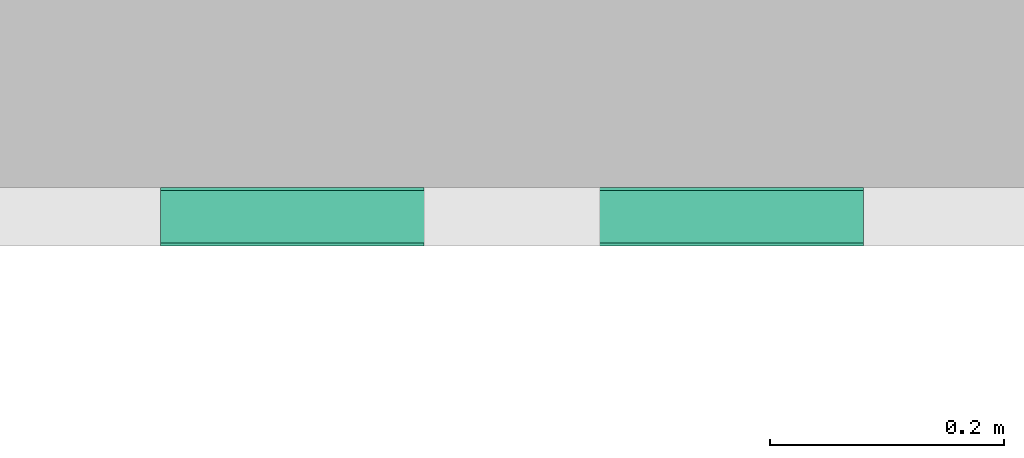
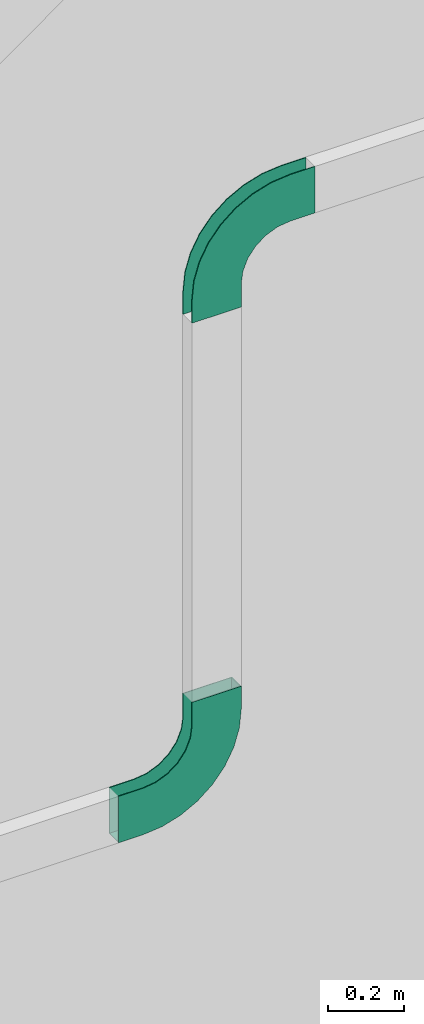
# One storey, part 37 of 197: 2 flow fittings.
"""IFC2X3 building model written with IfcOpenShell, lengths in metres."""

import ifcopenshell
import ifcopenshell.guid

model = None  # the IFC model being written
_history = None  # IfcOwnerHistory: only IFC2X3 demands one
_inside = {}  # id of a spatial element -> (the spatial element, [elements in it])
_under = {}  # id of a project, library or spatial element -> (it, [spatial elements below it])
_declared = {}  # id of a project -> (the project, [libraries it declares])
_typed = {}  # id of a type object -> (the type object, [elements of that type])
_made_of = {}  # id of a material, layer set ... -> (it, [elements and type objects made of it])


def new_model(schema):
    """Start an empty IFC model of exactly this schema.

    Asked for "IFC4X3", IfcOpenShell would pick the latest addendum, in which some entities
    have other attributes; the version numbers below select the first issue.
    IFC2X3 requires an IfcOwnerHistory on every rooted entity: one is made here for all.
    """
    global model, _history
    if schema == "IFC4X3":
        model = ifcopenshell.file(schema_version=(4, 3, 0, 0))
    else:
        model = ifcopenshell.file(schema=schema)
    _inside.clear()
    _under.clear()
    _declared.clear()
    _typed.clear()
    _made_of.clear()
    _history = None
    if model.schema == "IFC2X3":
        org = make("IfcOrganization", Name="unknown")
        user = make(
            "IfcPersonAndOrganization",
            ThePerson=make("IfcPerson", FamilyName="unknown"),
            TheOrganization=org,
        )
        app = make(
            "IfcApplication",
            ApplicationDeveloper=org,
            Version="unknown",
            ApplicationFullName="unknown",
            ApplicationIdentifier="unknown",
        )
        _history = make(
            "IfcOwnerHistory",
            OwningUser=user,
            OwningApplication=app,
            ChangeAction="ADDED",
            CreationDate=0,
        )
    return model


def make(cls, **values):
    """One entity of the class cls with the attributes given. An attribute that is None is left unset."""
    return model.create_entity(
        cls, **{name: value for name, value in values.items() if value is not None}
    )


def entity(cls, *values):
    """Any entity or typed value of the class cls, its attributes in the order of the schema. None: left unset."""
    e = model.create_entity(cls)
    for i, value in enumerate(values):
        if value is not None:
            e[i] = value
    return e


def rooted(cls, **values):
    """An entity with a GlobalId (a new one), such as an element, a storey or a relation."""
    return make(cls, GlobalId=ifcopenshell.guid.new(), OwnerHistory=_history, **values)


def si_unit(unit_type, name, prefix=None):
    """IfcSIUnit, for example si_unit("LENGTHUNIT", "METRE", prefix="MILLI")."""
    return make("IfcSIUnit", UnitType=unit_type, Prefix=prefix, Name=name)


def converted_unit(unit_type, name, factor, base, dimensions=None, offset=None):
    """IfcConversionBasedUnit, such as the inch: factor (a typed value) times the base unit."""
    return make(
        "IfcConversionBasedUnit"
        if offset is None
        else "IfcConversionBasedUnitWithOffset",
        ConversionOffset=offset,
        Dimensions=None
        if dimensions is None
        else entity("IfcDimensionalExponents", *dimensions),
        UnitType=unit_type,
        Name=name,
        ConversionFactor=make(
            "IfcMeasureWithUnit", ValueComponent=factor, UnitComponent=base
        ),
    )


def assignment(units):
    """IfcUnitAssignment: the units of a project."""
    return None if units is None else make("IfcUnitAssignment", Units=units)


def point(xyz):
    """IfcCartesianPoint."""
    return None if xyz is None else make("IfcCartesianPoint", Coordinates=xyz)


def direction(xyz):
    """IfcDirection."""
    return None if xyz is None else make("IfcDirection", DirectionRatios=xyz)


def frame(location, z_axis=None, x_axis=None):
    """IfcAxis2Placement3D, a coordinate frame: its origin and axes. An axis left out is left unset."""
    return make(
        "IfcAxis2Placement3D",
        Location=point(location),
        Axis=direction(z_axis),
        RefDirection=direction(x_axis),
    )


def origin():
    """The frame at (0, 0, 0) with its axes left unset."""
    return frame((0.0, 0.0, 0.0))


def place(relative_to, where):
    """IfcLocalPlacement: puts the frame where relative to a parent placement (None: the world)."""
    return make(
        "IfcLocalPlacement", PlacementRelTo=relative_to, RelativePlacement=where
    )


def context(
    kind, dimensions, precision=None, world=None, true_north=None, identifier=None
):
    """IfcGeometricRepresentationContext, for example the 3D "Model" context."""
    return make(
        "IfcGeometricRepresentationContext",
        ContextIdentifier=identifier,
        ContextType=kind,
        CoordinateSpaceDimension=dimensions,
        Precision=precision,
        WorldCoordinateSystem=world,
        TrueNorth=true_north,
    )


def subcontext(parent, identifier, kind, view, scale=None):
    """IfcGeometricRepresentationSubContext, for example "Body" below "Model"."""
    return make(
        "IfcGeometricRepresentationSubContext",
        ContextIdentifier=identifier,
        ContextType=kind,
        ParentContext=parent,
        TargetScale=scale,
        TargetView=view,
    )


def project(units=None, contexts=None):
    """IfcProject with its units and contexts."""
    return rooted(
        "IfcProject",
        Name="project",
        RepresentationContexts=contexts,
        UnitsInContext=assignment(units),
    )


def spatial(cls, under=None, at=None, **own):
    """A site, building, storey or space (cls), placed at a placement, below another one or the project."""
    s = rooted(cls, ObjectPlacement=at, **own)
    if under is not None:
        _under.setdefault(under.id(), (under, []))[1].append(s)
    return s


def faces_of(points, faces, orient=None, outer=None):
    """IfcFace entities. A face is a list of loops; a loop is a list of indices into points, from 0.

    orient and outer hold one flag for each loop. By default every Orientation is true, the
    first loop of a face is its IfcFaceOuterBound and the others are IfcFaceBound.
    """
    made = []
    for i, loops in enumerate(faces):
        bounds = []
        for j, loop in enumerate(loops):
            is_outer = j == 0 if outer is None else outer[i][j]
            bounds.append(
                make(
                    "IfcFaceOuterBound" if is_outer else "IfcFaceBound",
                    Bound=make("IfcPolyLoop", Polygon=[points[k] for k in loop]),
                    Orientation=True if orient is None else orient[i][j],
                )
            )
        made.append(make("IfcFace", Bounds=bounds))
    return made


def faceted_brep(points, faces, orient=None, outer=None, voids=None):
    """IfcFacetedBrep: a solid bounded by flat faces; with voids (closed shells), ...WithVoids."""
    shared = [point(p) for p in points]
    hull = make("IfcClosedShell", CfsFaces=faces_of(shared, faces, orient, outer))
    if voids is None:
        return make("IfcFacetedBrep", Outer=hull)
    return make(
        "IfcFacetedBrepWithVoids",
        Outer=hull,
        Voids=[
            make(cls, CfsFaces=faces_of(shared, fs, o, b)) for cls, fs, o, b in voids
        ],
    )


def shape(context_of_items, identifier, shape_type, items):
    """IfcShapeRepresentation: the items that make up one representation, for example the "Body"."""
    return make(
        "IfcShapeRepresentation",
        ContextOfItems=context_of_items,
        RepresentationIdentifier=identifier,
        RepresentationType=shape_type,
        Items=items,
    )


def source(mapping_origin, context_of_items, identifier, shape_type, items):
    """IfcRepresentationMap: a shape defined once, which mapped items show again and again."""
    return make(
        "IfcRepresentationMap",
        MappingOrigin=mapping_origin,
        MappedRepresentation=shape(context_of_items, identifier, shape_type, items),
    )


def transform(
    local_origin,
    x_axis=None,
    y_axis=None,
    z_axis=None,
    scale=None,
    scale2=None,
    scale3=None,
    uniform=True,
):
    """IfcCartesianTransformationOperator3D, or its non-uniform kind. x_axis, y_axis, z_axis: its Axis1, 2, 3."""
    if uniform:
        return make(
            "IfcCartesianTransformationOperator3D",
            Axis1=direction(x_axis),
            Axis2=direction(y_axis),
            LocalOrigin=point(local_origin),
            Scale=scale,
            Axis3=direction(z_axis),
        )
    return make(
        "IfcCartesianTransformationOperator3DnonUniform",
        Axis1=direction(x_axis),
        Axis2=direction(y_axis),
        LocalOrigin=point(local_origin),
        Scale=scale,
        Axis3=direction(z_axis),
        Scale2=scale2,
        Scale3=scale3,
    )


def mapped(mapping_source, mapping_target):
    """IfcMappedItem: shows the shape of a source again, moved by a transform."""
    return make(
        "IfcMappedItem", MappingSource=mapping_source, MappingTarget=mapping_target
    )


def material(Name=None, Category=None):
    """IfcMaterial."""
    return make("IfcMaterial", Name=Name, Category=Category)


def made_of(thing, what):
    """Note that an element or type object is made of a material, layer set ...; save() writes the relation."""
    if what is not None:
        _made_of.setdefault(what.id(), (what, []))[1].append(thing)
    return thing


def type_object(cls, material=None, **own):
    """A type object (cls), such as IfcWallType, which elements share."""
    return made_of(rooted(cls, **own), material)


def type_shapes(of_type, sources):
    """Give a type object the sources (RepresentationMaps) that its elements show as mapped items."""
    of_type.RepresentationMaps = sources


def element(
    cls,
    number,
    at=None,
    inside=None,
    cuts=None,
    type_object=None,
    material=None,
    context=None,
    identifier="Body",
    shape_type=None,
    held_by="IfcProductDefinitionShape",
    body=None,
    shapes=None,
    **own,
):
    """One element of the class cls, such as IfcWall. Its Tag is "e" and its number.

    at: its placement. inside: the storey or other place that contains it. cuts: it is an
    opening in that element (IfcRelVoidsElement). A single representation is given by context,
    identifier, shape_type and body (its items); several are given by shapes. held_by: the class
    of the entity that holds the representations. save() writes the other relations.
    """
    e = rooted(cls, Tag="e%d" % number, ObjectPlacement=at, **own)
    if body is not None:
        shapes = [shape(context, identifier, shape_type, body)]
    if shapes is not None:
        e.Representation = make(held_by, Representations=shapes)
    if inside is not None:
        _inside.setdefault(inside.id(), (inside, []))[1].append(e)
    if cuts is not None:
        rooted(
            "IfcRelVoidsElement", RelatingBuildingElement=cuts, RelatedOpeningElement=e
        )
    if type_object is not None:
        _typed.setdefault(type_object.id(), (type_object, []))[1].append(e)
    return made_of(e, material)


def aggregate(whole, parts):
    """IfcRelAggregates: a whole, such as a stair, and the parts it consists of."""
    return rooted("IfcRelAggregates", RelatingObject=whole, RelatedObjects=parts)


def save(model, path):
    """Write the relations noted so far, then the file.

    IfcRelAggregates (storeys below a building ...), IfcRelContainedInSpatialStructure (elements
    in a storey), IfcRelDefinesByType, IfcRelAssociatesMaterial and IfcRelDeclares: one each for
    every whole, place, type object, material and project.
    """
    for whole, parts in _under.values():
        aggregate(whole, parts)
    for where, things in _inside.values():
        rooted(
            "IfcRelContainedInSpatialStructure",
            RelatedElements=things,
            RelatingStructure=where,
        )
    for kind, things in _typed.values():
        rooted("IfcRelDefinesByType", RelatedObjects=things, RelatingType=kind)
    for what, things in _made_of.values():
        rooted("IfcRelAssociatesMaterial", RelatedObjects=things, RelatingMaterial=what)
    for by, libraries in _declared.values():
        rooted("IfcRelDeclares", RelatingContext=by, RelatedDefinitions=libraries)
    model.write(path)


model = new_model("IFC2X3")

# Units and contexts
model_context = context("Model", 3, precision=1e-05, world=origin(), true_north=direction((6.123031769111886e-17, 1.0)))
body_context = subcontext(model_context, "Body", "Model", "MODEL_VIEW")
ifc_project = project(units=[si_unit("LENGTHUNIT", "METRE"), converted_unit("PLANEANGLEUNIT", "DEGREE", entity("IfcPlaneAngleMeasure", 0.017453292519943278), si_unit("PLANEANGLEUNIT", "RADIAN"), dimensions=[0, 0, 0, 0, 0, 0, 0]), si_unit("AREAUNIT", "SQUARE_METRE")], contexts=[model_context])

# Site, building, storey
site_placement = place(None, origin())
site = spatial("IfcSite", under=ifc_project, at=site_placement, Name="Default", CompositionType="ELEMENT")
building_placement = place(site_placement, origin())
building = spatial("IfcBuilding", under=site, at=building_placement, CompositionType="ELEMENT")
storey_placement = place(building_placement, origin())
storey = spatial("IfcBuildingStorey", under=building, at=storey_placement, Name="Niveau 0", CompositionType="ELEMENT", Elevation=0.0)

# Flow fittings
ifc_material = material(Name="<Unnamed>")
cable_carrier_fitting_type_1 = type_object("IfcCableCarrierFittingType", Name="Chemin de câbles - Courbure concave:GOULOTTE CONTROLE ACCES", PredefinedType="NOTDEFINED", material=ifc_material)
shared_shape_1 = source(origin(), body_context, "Body", "Brep", [
    faceted_brep([(-0.2999999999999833, -0.0724600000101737, -0.022460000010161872), (-0.29999999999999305, 0.07499999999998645, -0.022460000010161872), (-0.29999999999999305, 0.07499999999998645, -0.025000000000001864), (-0.2999999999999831, -0.07500000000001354, -0.025000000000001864), (-0.2999999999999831, -0.07500000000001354, 0.024999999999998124), (-0.29999999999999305, 0.07499999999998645, 0.024999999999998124), (-0.29999999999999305, 0.07499999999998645, 0.022460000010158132), (-0.2999999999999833, -0.0724600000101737, 0.022460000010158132), (-0.22499999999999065, -0.0750000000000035, 0.024999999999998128), (-0.16647290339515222, -0.06923558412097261, 0.02499999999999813), (-0.11019497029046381, -0.05216385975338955, 0.02499999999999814), (-0.05832893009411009, -0.02444088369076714, 0.02499999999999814), (-0.012867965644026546, 0.01286796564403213, 0.024999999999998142), (0.024440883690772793, 0.058328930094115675, 0.024999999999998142), (0.05216385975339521, 0.11019497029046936, 0.024999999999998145), (0.0692355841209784, 0.16647290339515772, 0.024999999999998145), (0.07500000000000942, 0.2249999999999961, 0.024999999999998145), (0.07500000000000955, 0.2999999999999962, 0.024999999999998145), (-0.07499999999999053, 0.2999999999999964, 0.02499999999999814), (-0.07499999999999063, 0.2249999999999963, 0.02499999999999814), (-0.07673936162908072, 0.21178823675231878, 0.024999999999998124), (-0.0775555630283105, 0.20558857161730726, 0.024999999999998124), (-0.07883334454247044, 0.19588285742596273, 0.024999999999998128), (-0.08011112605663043, 0.18617714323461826, 0.02499999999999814), (-0.08385739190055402, 0.17713285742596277, 0.024999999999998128), (-0.08760365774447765, 0.16808857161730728, 0.024999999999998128), (-0.09134992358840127, 0.15904428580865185, 0.024999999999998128), (-0.0950961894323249, 0.14999999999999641, 0.02499999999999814), (-0.1010556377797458, 0.14223349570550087, 0.024999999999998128), (-0.10701508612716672, 0.13446699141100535, 0.024999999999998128), (-0.11297453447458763, 0.12670048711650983, 0.024999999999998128), (-0.11893398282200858, 0.1189339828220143, 0.02499999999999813), (-0.12670048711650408, 0.1129745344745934, 0.024999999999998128), (-0.13446699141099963, 0.10701508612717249, 0.024999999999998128), (-0.14223349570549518, 0.10105563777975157, 0.024999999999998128), (-0.1499999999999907, 0.09509618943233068, 0.02499999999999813), (-0.15904428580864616, 0.09134992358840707, 0.024999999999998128), (-0.16808857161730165, 0.08760365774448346, 0.024999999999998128), (-0.17713285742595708, 0.08385739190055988, 0.02499999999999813), (-0.18617714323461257, 0.08011112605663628, 0.02499999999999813), (-0.1958828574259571, 0.07883334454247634, 0.024999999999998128), (-0.2055885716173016, 0.07755556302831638, 0.024999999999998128), (-0.21178823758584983, 0.07673936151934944, 0.024999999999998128), (-0.22499999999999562, 0.07499999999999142, 0.024999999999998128), (-0.22499999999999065, -0.07500000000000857, -0.025000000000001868), (-0.16647290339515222, -0.06923558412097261, -0.02500000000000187), (-0.22499999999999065, 0.07499999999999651, -0.025000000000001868), (-0.2117882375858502, 0.0767393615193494, -0.025000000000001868), (-0.1985764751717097, 0.07847872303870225, -0.025000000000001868), (-0.18617714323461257, 0.08011112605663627, -0.02500000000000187), (-0.17713285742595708, 0.08385739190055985, -0.025000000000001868), (-0.16808857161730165, 0.08760365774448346, -0.025000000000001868), (-0.15904428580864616, 0.09134992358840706, -0.025000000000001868), (-0.1499999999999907, 0.09509618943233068, -0.02500000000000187), (-0.14223349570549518, 0.10105563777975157, -0.025000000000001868), (-0.13446699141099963, 0.10701508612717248, -0.025000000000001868), (-0.12670048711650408, 0.1129745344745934, -0.025000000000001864), (-0.11893398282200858, 0.11893398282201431, -0.02500000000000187), (-0.11297453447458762, 0.12670048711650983, -0.025000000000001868), (-0.1070150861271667, 0.13446699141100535, -0.025000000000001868), (-0.1010556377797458, 0.14223349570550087, -0.025000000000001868), (-0.0950961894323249, 0.14999999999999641, -0.025000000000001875), (-0.09134992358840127, 0.15904428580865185, -0.025000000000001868), (-0.08760365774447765, 0.16808857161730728, -0.025000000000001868), (-0.08385739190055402, 0.17713285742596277, -0.025000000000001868), (-0.08011112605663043, 0.18617714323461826, -0.025000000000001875), (-0.07847872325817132, 0.19857647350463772, -0.025000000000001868), (-0.07673936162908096, 0.21178823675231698, -0.025000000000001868), (-0.0749999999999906, 0.2249999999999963, -0.025000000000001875), (-0.07499999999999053, 0.2999999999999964, -0.025000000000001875), (0.07500000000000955, 0.2999999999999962, -0.025000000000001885), (0.07500000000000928, 0.22499999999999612, -0.025000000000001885), (0.06923558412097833, 0.16647290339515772, -0.025000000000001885), (0.05216385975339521, 0.11019497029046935, -0.025000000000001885), (0.024440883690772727, 0.058328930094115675, -0.02500000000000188), (-0.012867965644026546, 0.01286796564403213, -0.02500000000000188), (-0.05832893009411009, -0.02444088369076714, -0.025000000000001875), (-0.11019497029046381, -0.05216385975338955, -0.025000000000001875), (-0.22499999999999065, 0.07499999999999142, -0.02246000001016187), (-0.22499999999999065, 0.07499999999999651, 0.02246000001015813), (-0.22499999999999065, -0.07246000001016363, -0.02246000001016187), (-0.16696843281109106, -0.06674438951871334, -0.022460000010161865), (-0.11116698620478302, -0.04981720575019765, -0.02246000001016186), (-0.0597400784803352, -0.022328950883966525, -0.02246000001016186), (-0.014664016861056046, 0.014664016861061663, -0.022460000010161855), (0.022328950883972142, 0.05974007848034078, -0.022460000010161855), (0.049817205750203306, 0.11116698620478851, -0.02246000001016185), (0.0667443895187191, 0.1669684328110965, -0.02246000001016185), (0.0724600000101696, 0.2249999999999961, -0.02246000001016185), (0.07246000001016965, 0.2999999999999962, -0.02246000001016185), (-0.07499999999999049, 0.2999999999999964, -0.02246000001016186), (-0.07499999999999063, 0.2249999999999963, -0.02246000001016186), (-0.07627778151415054, 0.2152942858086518, -0.022460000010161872), (-0.0775555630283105, 0.20558857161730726, -0.022460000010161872), (-0.07883334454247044, 0.19588285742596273, -0.022460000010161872), (-0.08011112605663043, 0.1861771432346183, -0.02246000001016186), (-0.08385739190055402, 0.17713285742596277, -0.02246000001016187), (-0.08760365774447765, 0.16808857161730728, -0.022460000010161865), (-0.09134992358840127, 0.1590442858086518, -0.02246000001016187), (-0.09509618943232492, 0.14999999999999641, -0.02246000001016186), (-0.10105563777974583, 0.14223349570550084, -0.02246000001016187), (-0.10701508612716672, 0.13446699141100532, -0.022460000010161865), (-0.11297453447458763, 0.12670048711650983, -0.02246000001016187), (-0.11893398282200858, 0.11893398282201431, -0.022460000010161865), (-0.12670048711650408, 0.1129745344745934, -0.02246000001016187), (-0.13446699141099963, 0.10701508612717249, -0.02246000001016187), (-0.14223349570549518, 0.10105563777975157, -0.02246000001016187), (-0.1499999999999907, 0.0950961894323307, -0.022460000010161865), (-0.15904428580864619, 0.09134992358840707, -0.02246000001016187), (-0.16808857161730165, 0.08760365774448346, -0.022460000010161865), (-0.1771328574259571, 0.08385739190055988, -0.02246000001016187), (-0.18617714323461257, 0.08011112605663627, -0.022460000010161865), (-0.1958828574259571, 0.07883334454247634, -0.02246000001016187), (-0.2055885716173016, 0.07755556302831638, -0.02246000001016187), (-0.21178823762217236, 0.07673936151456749, -0.02246000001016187), (-0.22499999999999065, -0.07246000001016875, 0.02246000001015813), (-0.16696843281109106, -0.06674438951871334, 0.022460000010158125), (-0.21529428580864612, 0.07627778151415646, 0.02246000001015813), (-0.2055885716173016, 0.07755556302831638, 0.02246000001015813), (-0.1958828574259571, 0.07883334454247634, 0.02246000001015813), (-0.18617714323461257, 0.08011112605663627, 0.022460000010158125), (-0.17713285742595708, 0.08385739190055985, 0.02246000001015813), (-0.16808857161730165, 0.08760365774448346, 0.02246000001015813), (-0.15904428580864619, 0.09134992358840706, 0.02246000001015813), (-0.1499999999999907, 0.09509618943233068, 0.022460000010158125), (-0.14223349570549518, 0.10105563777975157, 0.02246000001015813), (-0.13446699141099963, 0.10701508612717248, 0.02246000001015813), (-0.12670048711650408, 0.1129745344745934, 0.02246000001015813), (-0.11893398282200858, 0.11893398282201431, 0.022460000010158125), (-0.11297453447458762, 0.12670048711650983, 0.02246000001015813), (-0.1070150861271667, 0.13446699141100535, 0.022460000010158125), (-0.10105563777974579, 0.14223349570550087, 0.02246000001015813), (-0.0950961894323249, 0.14999999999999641, 0.02246000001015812), (-0.09134992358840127, 0.1590442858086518, 0.02246000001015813), (-0.08760365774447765, 0.16808857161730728, 0.02246000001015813), (-0.08385739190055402, 0.17713285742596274, 0.02246000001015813), (-0.08011112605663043, 0.18617714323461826, 0.02246000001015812), (-0.07883334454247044, 0.1958828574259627, 0.02246000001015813), (-0.0775555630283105, 0.20558857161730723, 0.02246000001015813), (-0.07627778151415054, 0.2152942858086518, 0.02246000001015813), (-0.0749999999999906, 0.2249999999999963, 0.02246000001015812), (-0.07499999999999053, 0.2999999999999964, 0.02246000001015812), (0.0724600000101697, 0.2999999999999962, 0.02246000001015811), (0.07246000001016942, 0.2249999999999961, 0.02246000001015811), (0.06674438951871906, 0.1669684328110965, 0.02246000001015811), (0.04981720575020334, 0.11116698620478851, 0.02246000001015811), (0.022328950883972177, 0.05974007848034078, 0.022460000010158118), (-0.014664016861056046, 0.014664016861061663, 0.022460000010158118), (-0.0597400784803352, -0.022328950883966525, 0.02246000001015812), (-0.11116698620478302, -0.04981720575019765, 0.02246000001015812)], [[[0, 1, 2, 3, 4, 5, 6, 7]], [[5, 4, 8, 9, 10, 11, 12, 13, 14, 15, 16, 17, 18, 19, 20, 21, 22, 23, 24, 25, 26, 27, 28, 29, 30, 31, 32, 33, 34, 35, 36, 37, 38, 39, 40, 41, 42, 43]], [[4, 3, 44, 8]], [[45, 44, 3, 2, 46, 47, 48, 49, 50, 51, 52, 53, 54, 55, 56, 57, 58, 59, 60, 61, 62, 63, 64, 65, 66, 67, 68, 69, 70, 71, 72, 73, 74, 75, 76, 77]], [[2, 1, 78, 46]], [[6, 5, 43, 79]], [[1, 0, 80, 81, 82, 83, 84, 85, 86, 87, 88, 89, 90, 91, 92, 93, 94, 95, 96, 97, 98, 99, 100, 101, 102, 103, 104, 105, 106, 107, 108, 109, 110, 111, 112, 113, 114, 78]], [[0, 7, 115, 80]], [[116, 115, 7, 6, 79, 117, 118, 119, 120, 121, 122, 123, 124, 125, 126, 127, 128, 129, 130, 131, 132, 133, 134, 135, 136, 137, 138, 139, 140, 141, 142, 143, 144, 145, 146, 147, 148, 149]], [[9, 8, 44, 45]], [[45, 77, 10, 9]], [[76, 11, 10, 77]], [[75, 12, 11, 76]], [[13, 74, 73, 14]], [[14, 73, 72, 15]], [[15, 72, 71, 16]], [[75, 74, 13, 12]], [[46, 78, 114, 113, 112, 111, 49, 48, 47]], [[41, 40, 39, 120, 119, 118, 117, 79, 43, 42]], [[108, 107, 53, 52, 51, 50, 49, 111, 110, 109]], [[35, 124, 123, 122, 121, 120, 39, 38, 37, 36]], [[55, 54, 53, 107, 106, 105, 104, 103, 57, 56]], [[127, 126, 125, 124, 35, 34, 33, 32, 31, 128]], [[95, 94, 93, 92, 91, 68, 67, 66, 65]], [[137, 136, 23, 22, 21, 20, 19, 140, 139, 138]], [[95, 65, 64, 63, 62, 61, 99, 98, 97, 96]], [[24, 23, 136, 135, 134, 133, 132, 27, 26, 25]], [[57, 103, 102, 101, 100, 99, 61, 60, 59, 58]], [[128, 31, 30, 29, 28, 27, 132, 131, 130, 129]], [[81, 80, 115, 116]], [[149, 82, 81, 116]], [[82, 149, 148, 83]], [[148, 147, 84, 83]], [[86, 85, 146, 145]], [[87, 86, 145, 144]], [[88, 87, 144, 143]], [[147, 146, 85, 84]], [[69, 90, 89, 142, 141, 18, 17, 70]], [[16, 71, 70, 17]], [[68, 91, 90, 69]], [[140, 19, 18, 141]], [[88, 143, 142, 89]]]),
])
type_shapes(cable_carrier_fitting_type_1, [shared_shape_1])
flow_fitting_1_placement = place(storey_placement, frame((-533.4704540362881, 151.82535524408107, 1.1007853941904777), z_axis=(0.0, -1.0, 0.0), x_axis=(1.0, 0.0, 0.0)))
element("IfcFlowFitting", 1, at=flow_fitting_1_placement, inside=storey, type_object=cable_carrier_fitting_type_1, material=ifc_material, Name="Chemin de câbles - Courbure concave:GOULOTTE CONTROLE ACCES", ObjectType="Chemin de câbles - Courbure concave:GOULOTTE CONTROLE ACCES", context=body_context, shape_type="MappedRepresentation", body=[
    mapped(shared_shape_1, transform((0.0, 0.0, 0.0), scale=1.0)),
])
cable_carrier_fitting_type_2 = type_object("IfcCableCarrierFittingType", Name="Chemin de câbles - Courbure convexe:GOULOTTE CONTROLE ACCES", PredefinedType="NOTDEFINED", material=ifc_material)
shared_shape_2 = source(origin(), body_context, "Body", "Brep", [
    faceted_brep([(-0.2999999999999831, -0.07500000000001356, -0.025000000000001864), (-0.2999999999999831, -0.07500000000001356, -0.022460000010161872), (-0.29999999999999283, 0.0724600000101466, -0.022460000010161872), (-0.29999999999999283, 0.0724600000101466, 0.022460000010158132), (-0.2999999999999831, -0.07500000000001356, 0.022460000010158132), (-0.2999999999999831, -0.07500000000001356, 0.024999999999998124), (-0.299999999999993, 0.07499999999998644, 0.024999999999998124), (-0.299999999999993, 0.07499999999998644, -0.025000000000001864), (-0.22499999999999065, -0.0750000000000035, 0.024999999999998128), (-0.21561089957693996, -0.07407525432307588, 0.024999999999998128), (-0.20622179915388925, -0.07315050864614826, 0.024999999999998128), (-0.19683269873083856, -0.07222576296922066, 0.024999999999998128), (-0.1874435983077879, -0.07130101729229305, 0.024999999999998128), (-0.17695825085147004, -0.07026830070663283, 0.024999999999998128), (-0.16647290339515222, -0.06923558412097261, 0.02499999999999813), (-0.15240342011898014, -0.06496765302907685, 0.024999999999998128), (-0.138333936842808, -0.0606997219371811, 0.024999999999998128), (-0.12426445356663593, -0.056431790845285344, 0.024999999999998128), (-0.11019497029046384, -0.05216385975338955, 0.02499999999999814), (-0.09722846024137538, -0.04523311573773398, 0.024999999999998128), (-0.08426195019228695, -0.038302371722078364, 0.02499999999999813), (-0.0712954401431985, -0.031371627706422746, 0.024999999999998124), (-0.05832893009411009, -0.02444088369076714, 0.02499999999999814), (-0.04696368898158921, -0.015113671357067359, 0.024999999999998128), (-0.035598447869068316, -0.0057864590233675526, 0.024999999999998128), (-0.024233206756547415, 0.0035407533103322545, 0.024999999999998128), (-0.012867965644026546, 0.01286796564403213, 0.024999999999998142), (-0.0035407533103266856, 0.02423320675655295, 0.024999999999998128), (0.005786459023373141, 0.03559844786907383, 0.024999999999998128), (0.015113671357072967, 0.04696368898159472, 0.024999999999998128), (0.02444088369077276, 0.058328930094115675, 0.024999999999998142), (0.031371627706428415, 0.071295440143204, 0.024999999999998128), (0.03830237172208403, 0.08426195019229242, 0.024999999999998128), (0.04523311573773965, 0.09722846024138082, 0.024999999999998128), (0.05216385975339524, 0.11019497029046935, 0.024999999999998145), (0.056431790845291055, 0.12426445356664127, 0.024999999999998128), (0.06069972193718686, 0.13833393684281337, 0.024999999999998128), (0.06496765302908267, 0.15240342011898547, 0.02499999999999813), (0.06923558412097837, 0.16647290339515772, 0.024999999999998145), (0.0706766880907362, 0.18110467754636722, 0.024999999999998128), (0.07211779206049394, 0.1957364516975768, 0.024999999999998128), (0.07315050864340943, 0.20622179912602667, 0.024999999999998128), (0.07407525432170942, 0.21561089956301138, 0.024999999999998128), (0.07500000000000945, 0.2249999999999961, 0.024999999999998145), (0.07500000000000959, 0.29999999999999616, 0.024999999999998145), (-0.07499999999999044, 0.29999999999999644, 0.02499999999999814), (-0.07499999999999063, 0.2249999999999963, 0.02499999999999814), (-0.08011112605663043, 0.1861771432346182, 0.02499999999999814), (-0.0950961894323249, 0.14999999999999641, 0.02499999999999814), (-0.11893398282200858, 0.11893398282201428, 0.02499999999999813), (-0.1499999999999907, 0.09509618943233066, 0.02499999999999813), (-0.18617714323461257, 0.08011112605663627, 0.02499999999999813), (-0.2249999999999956, 0.07499999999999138, 0.024999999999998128), (-0.2249999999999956, 0.07499999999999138, -0.025000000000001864), (-0.18617714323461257, 0.08011112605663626, -0.02500000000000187), (-0.1499999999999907, 0.09509618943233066, -0.02500000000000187), (-0.11893398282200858, 0.1189339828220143, -0.02500000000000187), (-0.0950961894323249, 0.1499999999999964, -0.025000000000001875), (-0.08011112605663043, 0.1861771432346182, -0.025000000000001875), (-0.07499999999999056, 0.2249999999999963, -0.025000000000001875), (-0.07499999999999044, 0.2999999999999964, -0.025000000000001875), (0.07500000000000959, 0.29999999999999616, -0.025000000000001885), (0.07500000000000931, 0.22499999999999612, -0.025000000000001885), (0.07407525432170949, 0.2156108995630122, -0.025000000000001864), (0.07315050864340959, 0.2062217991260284, -0.025000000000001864), (0.07211779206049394, 0.19573645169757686, -0.025000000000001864), (0.0706766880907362, 0.18110467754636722, -0.025000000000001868), (0.06923558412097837, 0.16647290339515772, -0.025000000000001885), (0.06496765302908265, 0.15240342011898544, -0.025000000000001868), (0.06069972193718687, 0.1383339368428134, -0.025000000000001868), (0.05643179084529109, 0.12426445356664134, -0.025000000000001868), (0.05216385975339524, 0.11019497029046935, -0.025000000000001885), (0.04523311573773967, 0.09722846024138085, -0.025000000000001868), (0.038302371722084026, 0.08426195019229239, -0.025000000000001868), (0.031371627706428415, 0.071295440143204, -0.025000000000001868), (0.02444088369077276, 0.058328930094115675, -0.02500000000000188), (0.015113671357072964, 0.04696368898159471, -0.025000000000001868), (0.005786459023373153, 0.03559844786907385, -0.025000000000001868), (-0.0035407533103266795, 0.024233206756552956, -0.025000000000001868), (-0.012867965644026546, 0.01286796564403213, -0.02500000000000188), (-0.024233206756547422, 0.003540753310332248, -0.025000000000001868), (-0.0355984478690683, -0.00578645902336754, -0.025000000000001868), (-0.046963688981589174, -0.015113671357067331, -0.02500000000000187), (-0.05832893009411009, -0.02444088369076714, -0.025000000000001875), (-0.07129544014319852, -0.03137162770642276, -0.025000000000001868), (-0.08426195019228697, -0.038302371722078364, -0.025000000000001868), (-0.09722846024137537, -0.04523311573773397, -0.025000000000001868), (-0.11019497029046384, -0.05216385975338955, -0.025000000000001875), (-0.12426445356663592, -0.056431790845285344, -0.025000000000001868), (-0.138333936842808, -0.0606997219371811, -0.025000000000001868), (-0.15240342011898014, -0.06496765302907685, -0.02500000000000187), (-0.16647290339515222, -0.06923558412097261, -0.02500000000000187), (-0.17695825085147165, -0.070268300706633, -0.025000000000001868), (-0.18744359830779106, -0.07130101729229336, -0.025000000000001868), (-0.19683269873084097, -0.0722257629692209, -0.025000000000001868), (-0.20622179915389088, -0.07315050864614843, -0.025000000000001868), (-0.21561089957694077, -0.07407525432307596, -0.025000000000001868), (-0.2249999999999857, -0.07500000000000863, -0.025000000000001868), (-0.2249999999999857, -0.07500000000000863, -0.02246000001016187), (-0.2249999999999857, -0.07500000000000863, 0.02246000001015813), (-0.21561089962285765, -0.07407525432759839, -0.02246000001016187), (-0.2062217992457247, -0.07315050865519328, -0.02246000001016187), (-0.19573645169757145, -0.07211779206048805, -0.02246000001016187), (-0.1811046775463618, -0.07067668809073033, -0.022460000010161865), (-0.16647290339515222, -0.06923558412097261, -0.022460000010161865), (-0.15240342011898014, -0.06496765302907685, -0.02246000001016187), (-0.138333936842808, -0.0606997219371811, -0.022460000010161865), (-0.12426445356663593, -0.056431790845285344, -0.02246000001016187), (-0.11019497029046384, -0.05216385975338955, -0.02246000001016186), (-0.09722846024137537, -0.045233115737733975, -0.02246000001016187), (-0.08426195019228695, -0.038302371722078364, -0.02246000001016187), (-0.07129544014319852, -0.03137162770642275, -0.02246000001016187), (-0.05832893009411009, -0.02444088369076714, -0.02246000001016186), (-0.046963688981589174, -0.01511367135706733, -0.02246000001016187), (-0.0355984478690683, -0.00578645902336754, -0.02246000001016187), (-0.024233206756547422, 0.0035407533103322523, -0.02246000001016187), (-0.012867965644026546, 0.01286796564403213, -0.022460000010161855), (-0.0035407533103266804, 0.024233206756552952, -0.02246000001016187), (0.0057864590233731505, 0.03559844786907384, -0.022460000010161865), (0.015113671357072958, 0.046963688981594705, -0.02246000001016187), (0.02444088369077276, 0.058328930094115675, -0.022460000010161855), (0.031371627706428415, 0.071295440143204, -0.02246000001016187), (0.038302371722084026, 0.08426195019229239, -0.02246000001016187), (0.04523311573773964, 0.09722846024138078, -0.02246000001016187), (0.05216385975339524, 0.11019497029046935, -0.02246000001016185), (0.05643179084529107, 0.12426445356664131, -0.02246000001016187), (0.06069972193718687, 0.1383339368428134, -0.02246000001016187), (0.06496765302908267, 0.15240342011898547, -0.02246000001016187), (0.06923558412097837, 0.16647290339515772, -0.02246000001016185), (0.0706766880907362, 0.1811046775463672, -0.02246000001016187), (0.07211779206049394, 0.1957364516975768, -0.02246000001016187), (0.07355889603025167, 0.21036822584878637, -0.02246000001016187), (0.07500000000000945, 0.2249999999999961, -0.02246000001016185), (0.07500000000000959, 0.29999999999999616, -0.02246000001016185), (-0.07246000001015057, 0.29999999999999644, -0.02246000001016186), (-0.07246000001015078, 0.2249999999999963, -0.02246000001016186), (-0.07765767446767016, 0.18551974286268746, -0.02246000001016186), (-0.09289648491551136, 0.14873000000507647, -0.02246000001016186), (-0.11713793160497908, 0.11713793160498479, -0.022460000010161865), (-0.14873000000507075, 0.09289648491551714, -0.022460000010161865), (-0.1855197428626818, 0.07765767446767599, -0.022460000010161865), (-0.22499999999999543, 0.07246000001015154, -0.02246000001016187), (-0.22499999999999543, 0.07246000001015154, 0.022460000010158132), (-0.1855197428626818, 0.07765767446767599, 0.022460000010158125), (-0.14873000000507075, 0.09289648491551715, 0.022460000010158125), (-0.11713793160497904, 0.1171379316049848, 0.022460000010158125), (-0.0928964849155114, 0.14873000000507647, 0.02246000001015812), (-0.07765767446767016, 0.18551974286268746, 0.02246000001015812), (-0.07246000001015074, 0.2249999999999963, 0.02246000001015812), (-0.07246000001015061, 0.29999999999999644, 0.02246000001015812), (0.07500000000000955, 0.29999999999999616, 0.02246000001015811), (0.07500000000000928, 0.22499999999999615, 0.02246000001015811), (0.07355889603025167, 0.21036822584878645, 0.022460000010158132), (0.07211779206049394, 0.1957364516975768, 0.022460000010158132), (0.0706766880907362, 0.1811046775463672, 0.02246000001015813), (0.0692355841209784, 0.16647290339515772, 0.02246000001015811), (0.06496765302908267, 0.15240342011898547, 0.02246000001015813), (0.06069972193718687, 0.1383339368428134, 0.02246000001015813), (0.05643179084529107, 0.12426445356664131, 0.02246000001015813), (0.05216385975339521, 0.11019497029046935, 0.02246000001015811), (0.045233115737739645, 0.0972284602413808, 0.02246000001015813), (0.038302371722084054, 0.08426195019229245, 0.02246000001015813), (0.03137162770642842, 0.07129544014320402, 0.02246000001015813), (0.024440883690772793, 0.058328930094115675, 0.022460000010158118), (0.01511367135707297, 0.046963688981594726, 0.02246000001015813), (0.005786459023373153, 0.03559844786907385, 0.02246000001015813), (-0.0035407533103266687, 0.024233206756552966, 0.02246000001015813), (-0.012867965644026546, 0.01286796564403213, 0.022460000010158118), (-0.024233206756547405, 0.003540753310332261, 0.02246000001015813), (-0.0355984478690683, -0.00578645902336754, 0.02246000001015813), (-0.046963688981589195, -0.015113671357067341, 0.02246000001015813), (-0.05832893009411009, -0.02444088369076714, 0.02246000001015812), (-0.07129544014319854, -0.03137162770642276, 0.02246000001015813), (-0.08426195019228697, -0.038302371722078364, 0.02246000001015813), (-0.09722846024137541, -0.045233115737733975, 0.02246000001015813), (-0.11019497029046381, -0.05216385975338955, 0.02246000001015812), (-0.12426445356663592, -0.056431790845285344, 0.02246000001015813), (-0.138333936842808, -0.0606997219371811, 0.02246000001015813), (-0.15240342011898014, -0.06496765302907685, 0.02246000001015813), (-0.16647290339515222, -0.06923558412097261, 0.022460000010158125), (-0.18110467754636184, -0.07067668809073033, 0.02246000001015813), (-0.19573645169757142, -0.07211779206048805, 0.022460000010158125), (-0.21036822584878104, -0.07355889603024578, 0.02246000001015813)], [[[0, 1, 2, 3, 4, 5, 6, 7]], [[6, 5, 8, 9, 10, 11, 12, 13, 14, 15, 16, 17, 18, 19, 20, 21, 22, 23, 24, 25, 26, 27, 28, 29, 30, 31, 32, 33, 34, 35, 36, 37, 38, 39, 40, 41, 42, 43, 44, 45, 46, 47, 48, 49, 50, 51, 52]], [[7, 6, 52, 53]], [[53, 54, 55, 56, 57, 58, 59, 60, 61, 62, 63, 64, 65, 66, 67, 68, 69, 70, 71, 72, 73, 74, 75, 76, 77, 78, 79, 80, 81, 82, 83, 84, 85, 86, 87, 88, 89, 90, 91, 92, 93, 94, 95, 96, 97, 0, 7]], [[1, 0, 97, 98]], [[5, 4, 99, 8]], [[2, 1, 98, 100, 101, 102, 103, 104, 105, 106, 107, 108, 109, 110, 111, 112, 113, 114, 115, 116, 117, 118, 119, 120, 121, 122, 123, 124, 125, 126, 127, 128, 129, 130, 131, 132, 133, 134, 135, 136, 137, 138, 139, 140, 141]], [[3, 2, 141, 142]], [[142, 143, 144, 145, 146, 147, 148, 149, 150, 151, 152, 153, 154, 155, 156, 157, 158, 159, 160, 161, 162, 163, 164, 165, 166, 167, 168, 169, 170, 171, 172, 173, 174, 175, 176, 177, 178, 179, 180, 181, 182, 99, 4, 3]], [[54, 53, 52, 51]], [[55, 54, 51, 50]], [[55, 50, 49, 56]], [[47, 46, 59, 58]], [[47, 58, 57, 48]], [[56, 49, 48, 57]], [[104, 103, 102, 101, 100, 98, 97, 96, 95, 94, 93, 92, 91]], [[182, 181, 180, 179, 14, 13, 12, 11, 10, 9, 8, 99]], [[114, 113, 112, 83, 82, 81, 80, 79, 116, 115]], [[24, 23, 22, 171, 170, 169, 168, 167, 26, 25]], [[88, 87, 108, 107, 106, 105, 104, 91, 90, 89]], [[176, 175, 18, 17, 16, 15, 14, 179, 178, 177]], [[84, 83, 112, 111, 110, 109, 108, 87, 86, 85]], [[19, 18, 175, 174, 173, 172, 171, 22, 21, 20]], [[72, 71, 124, 123, 122, 121, 120, 75, 74, 73]], [[31, 30, 163, 162, 161, 160, 159, 34, 33, 32]], [[69, 68, 67, 128, 127, 126, 125, 124, 71, 70]], [[158, 157, 156, 155, 38, 37, 36, 35, 34, 159]], [[131, 130, 129, 128, 67, 66, 65, 64, 63, 62, 132]], [[154, 153, 152, 151, 43, 42, 41, 40, 39, 38, 155]], [[118, 117, 116, 79, 78, 77, 76, 75, 120, 119]], [[28, 27, 26, 167, 166, 165, 164, 163, 30, 29]], [[143, 142, 141, 140]], [[144, 143, 140, 139]], [[145, 144, 139, 138]], [[136, 135, 148, 147]], [[146, 137, 136, 147]], [[137, 146, 145, 138]], [[60, 45, 44, 150, 149, 134, 133, 61]], [[59, 46, 45, 60]], [[132, 62, 61, 133]], [[43, 151, 150, 44]], [[148, 135, 134, 149]]]),
])
type_shapes(cable_carrier_fitting_type_2, [shared_shape_2])
flow_fitting_2_placement = place(storey_placement, frame((-533.4704540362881, 151.82535524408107, 2.9257853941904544), z_axis=(0.0, 1.0, 0.0), x_axis=(0.0, 0.0, 1.0)))
element("IfcFlowFitting", 2, at=flow_fitting_2_placement, inside=storey, type_object=cable_carrier_fitting_type_2, material=ifc_material, Name="Chemin de câbles - Courbure convexe:GOULOTTE CONTROLE ACCES", ObjectType="Chemin de câbles - Courbure convexe:GOULOTTE CONTROLE ACCES", context=body_context, shape_type="MappedRepresentation", body=[
    mapped(shared_shape_2, transform((0.0, 0.0, 0.0), scale=1.0)),
])

save(model, "model.ifc")
